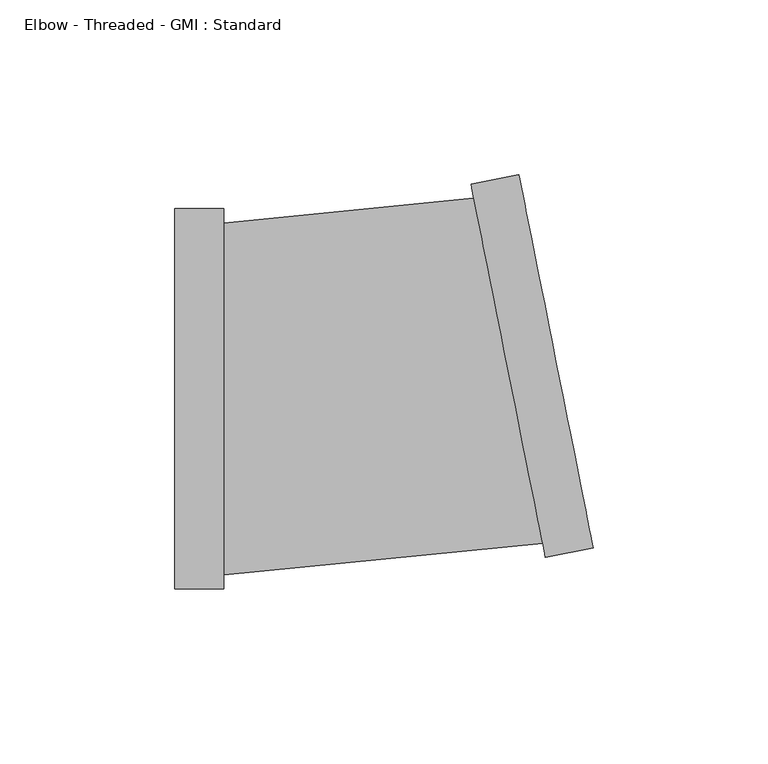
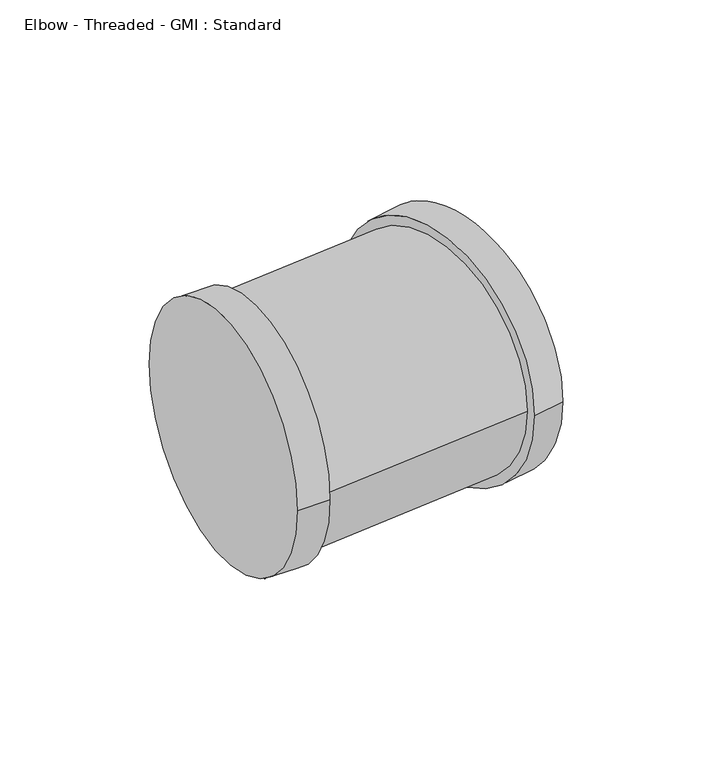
"""IFC4 building model written with IfcOpenShell, lengths in millimetres: pipe fitting geometry, Elbow - Threaded - GMI : Standard."""

from ifc_helpers import new_model, si_unit, point, frame, origin, place, context, project, spatial, circle_curve, ellipse_curve, trimmed, source, transform, mapped, element, save
from ifc_brep_helpers import plane_surface, cylinder_surface, revolved_surface, advanced_brep


def elbow_threaded_gmi_standard_f6d9032b(model_context):
    return source(origin(), model_context, "Body", "AdvancedBrep", [
        advanced_brep(
        [(-55.0, -54.4, 0.0), (-55.0, 54.4, 0.0), (-41.1, -54.4, 0.0), (-41.1, 54.4, 0.0), (-41.1, -50.32, 0.0), (-41.1, 50.32, 0.0), (50.9231885, -45.336507, 0.0), (29.6973615, 61.3729315, 0.0), (30.49333, 57.3713275, 0.0), (50.12722, -41.3349031, 0.0), (64.5561039, -42.6247515, 0.0), (43.3302769, 64.084687, 0.0)],
        [
            (0, 1, circle_curve(frame((-55.0, 0.0, 0.0), z_axis=(-1.0, 0.0, 0.0), x_axis=(0.0, 1.0, 0.0)), 54.4)),
            (1, 0, circle_curve(frame((-55.0, 0.0, 0.0), z_axis=(-1.0, 0.0, 0.0), x_axis=(0.0, 1.0, 0.0)), 54.4)),
            (2, 3, circle_curve(frame((-41.1, 0.0, 0.0), z_axis=(1.0, 0.0, 0.0), x_axis=(0.0, 1.0, 0.0)), 54.4)),
            (3, 2, circle_curve(frame((-41.1, 0.0, 0.0), z_axis=(1.0, 0.0, 0.0), x_axis=(0.0, 1.0, 0.0)), 54.4)),
            (4, 5, circle_curve(frame((-41.1, 0.0, 0.0), z_axis=(-1.0, 0.0, 0.0), x_axis=(0.0, 1.0, 0.0)), 50.32)),
            (5, 4, circle_curve(frame((-41.1, 0.0, 0.0), z_axis=(-1.0, 0.0, 0.0), x_axis=(0.0, 1.0, 0.0)), 50.32)),
            (0, 2),
            (3, 1),
            (6, 7, circle_curve(frame((40.310275, 8.0182122, 0.0), z_axis=(-0.9807852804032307, -0.1950903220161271, 0.0), x_axis=(-0.1950903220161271, 0.9807852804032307, 0.0)), 54.4)),
            (7, 6, circle_curve(frame((40.310275, 8.0182122, 0.0), z_axis=(-0.9807852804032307, -0.1950903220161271, 0.0), x_axis=(-0.1950903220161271, 0.9807852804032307, 0.0)), 54.4)),
            (8, 9, circle_curve(frame((40.310275, 8.0182122, 0.0), z_axis=(0.9807852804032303, 0.1950903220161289, 0.0), x_axis=(-0.1950903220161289, 0.9807852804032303, 0.0)), 50.32)),
            (9, 8, circle_curve(frame((40.310275, 8.0182122, 0.0), z_axis=(0.9807852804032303, 0.1950903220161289, 0.0), x_axis=(-0.1950903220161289, 0.9807852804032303, 0.0)), 50.32)),
            (10, 11, circle_curve(frame((53.9431904, 10.7299677, 0.0), z_axis=(0.9807852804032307, 0.1950903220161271, 0.0), x_axis=(-0.1950903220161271, 0.9807852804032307, 0.0)), 54.4)),
            (11, 10, circle_curve(frame((53.9431904, 10.7299677, 0.0), z_axis=(0.9807852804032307, 0.1950903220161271, 0.0), x_axis=(-0.1950903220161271, 0.9807852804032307, 0.0)), 54.4)),
            (6, 10),
            (11, 7),
            (8, 5, circle_curve(frame((-41.1, 417.2953029, 0.0), z_axis=(0.0, 0.0, -1.0), x_axis=(0.0, -1.0, 0.0)), 366.9753029)),
            (4, 9, circle_curve(frame((-41.1, 417.2953029, 0.0), z_axis=(0.0, 0.0, 1.0), x_axis=(0.0, -1.0, 0.0)), 467.6153029)),
        ],
        [
            plane_surface(frame((-55.0, 0.0, 0.0), z_axis=(-1.0, 0.0, 0.0), x_axis=(0.0, 0.0, 1.0))),
            plane_surface(frame((-41.1, 0.0, 0.0), z_axis=(1.0, 0.0, 0.0), x_axis=(0.0, 0.0, 1.0))),
            cylinder_surface(frame((-55.0, 0.0, 0.0), z_axis=(-1.0, 0.0, 0.0), x_axis=(0.0, 1.0, 0.0)), 54.4),
            plane_surface(frame((40.310275, 8.0182122, 0.0), z_axis=(-0.9807852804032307, -0.1950903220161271, 0.0), x_axis=(0.0, 0.0, 1.0))),
            plane_surface(frame((53.9431904, 10.7299677, 0.0), z_axis=(0.9807852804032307, 0.1950903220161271, 0.0), x_axis=(0.0, 0.0, 1.0))),
            cylinder_surface(frame((40.310275, 8.0182122, 0.0), z_axis=(-0.9807852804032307, -0.1950903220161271, 0.0), x_axis=(-0.1950903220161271, 0.9807852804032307, 0.0)), 54.4),
            revolved_surface(trimmed(ellipse_curve(frame((-41.1, 0.0, 0.0), z_axis=(-1.0, 0.0, 0.0), x_axis=(0.0, 1.0, 0.0)), 50.32, 50.32), [point((-41.1, -50.32, 0.0))], [point((-41.1, 50.32, 0.0))], True, "CARTESIAN"), (-41.1, 417.2953029, 0.0), (0.0, 0.0, 1.0)),
            revolved_surface(trimmed(ellipse_curve(frame((-41.1, 0.0, 0.0), z_axis=(-1.0, 0.0, 0.0), x_axis=(0.0, 1.0, 0.0)), 50.32, 50.32), [point((-41.1, 50.32, 0.0))], [point((-41.1, -50.32, 0.0))], True, "CARTESIAN"), (-41.1, 417.2953029, 0.0), (0.0, 0.0, 1.0)),
        ],
        [
            (0, [[1, 2]]),
            (1, [[3, 4], [5, 6]]),
            (2, [[-1, 7, -4, 8]]),
            (2, [[-2, -8, -3, -7]]),
            (3, [[9, 10], [11, 12]]),
            (4, [[13, 14]]),
            (5, [[-9, 15, -14, 16]]),
            (5, [[-10, -16, -13, -15]]),
            (6, [[17, -5, 18, -11]]),
            (7, [[-17, -12, -18, -6]]),
        ],
    ),
    ])


if __name__ == "__main__":
    model = new_model("IFC4")
    model_context = context("Model", 3, world=origin())
    ifc_project = project(units=[si_unit("LENGTHUNIT", "METRE", prefix="MILLI")], contexts=[model_context])
    site = spatial("IfcSite", under=ifc_project)
    building = spatial("IfcBuilding", under=site)
    placement = place(None, origin())
    elbow_threaded_gmi_standard_shape = elbow_threaded_gmi_standard_f6d9032b(model_context)
    element("IfcPipeFitting", 1, ObjectType="Elbow - Threaded - GMI : Standard", at=placement, inside=building, context=model_context, shape_type="MappedRepresentation", body=[
        mapped(elbow_threaded_gmi_standard_shape, transform((0.0, 0.0, 0.0), x_axis=(1.0, 0.0, 0.0), y_axis=(0.0, 1.0, 0.0), z_axis=(0.0, 0.0, 1.0))),
    ])
    save(model, "model.ifc")
